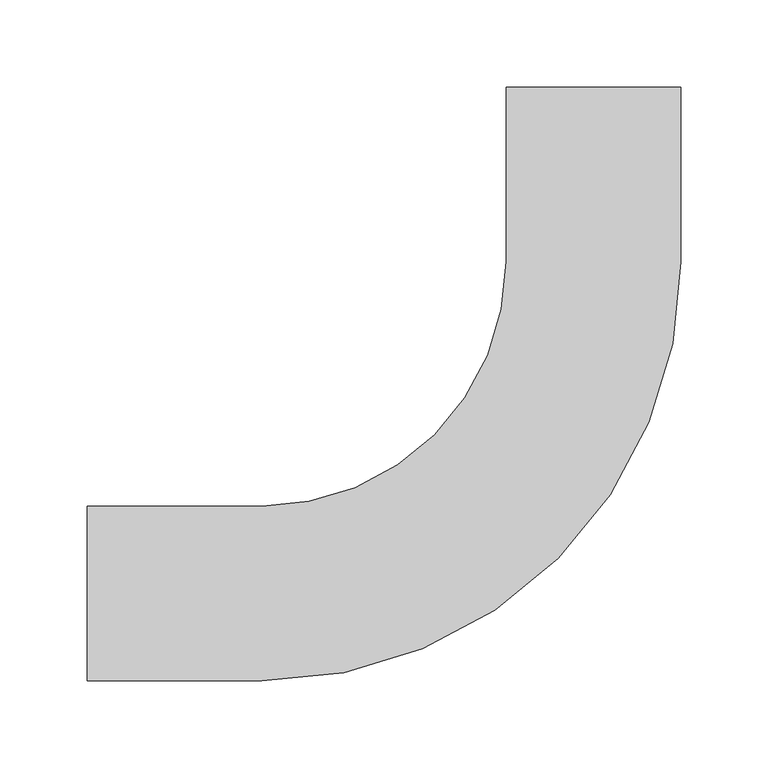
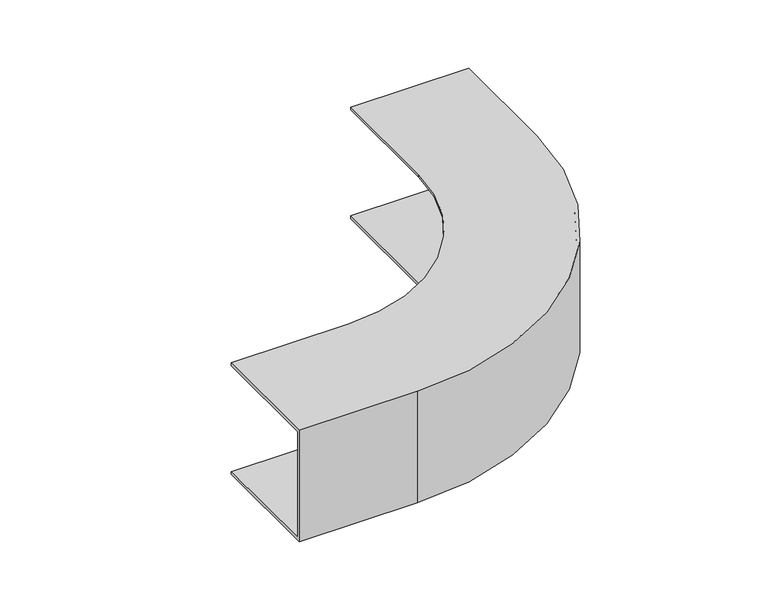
"""IFC4 building model written with IfcOpenShell, lengths in millimetres: cable carrier fitting geometry, BAKS_Vertical_bend_int : LZWCH100/LZWMCH100."""

from ifc_helpers import new_model, si_unit, frame, origin, place, context, project, spatial, polyline, circle_curve, source, transform, mapped, element, save
from ifc_brep_helpers import plane_surface, cylinder_surface, revolved_surface, advanced_brep


def cable_carrier_fitting_ed02f7b7(model_context):
    return source(origin(), model_context, "Body", "AdvancedBrep", [
        advanced_brep(
        [(-290.0, 50.0, -50.0), (-290.0, -50.0, -50.0), (-290.0, -50.0, 50.0), (-290.0, 50.0, 50.0), (-290.0, 50.0, 47.46), (-290.0, -47.46, 47.46), (-290.0, -47.46, -47.46), (-290.0, 50.0, -47.46), (-50.0, 290.0, -50.0), (-50.0, 290.0, -47.46), (47.46, 290.0, -47.46), (47.46, 290.0, 47.46), (-50.0, 290.0, 47.46), (-50.0, 290.0, 50.0), (50.0, 290.0, 50.0), (50.0, 290.0, -50.0), (-190.0, 50.0, -50.0), (-50.0, 190.0, -50.0), (50.0, 190.0, -50.0), (-190.0, -50.0, -50.0), (-190.0, -50.0, 50.0), (50.0, 190.0, 50.0), (-50.0, 190.0, 50.0), (-190.0, 50.0, 50.0), (-190.0, 50.0, 47.46), (-50.0, 190.0, 47.46), (47.46, 190.0, 47.46), (-190.0, -47.46, 47.46), (-190.0, -47.46, -47.46), (47.46, 190.0, -47.46), (-50.0, 190.0, -47.46), (-190.0, 50.0, -47.46)],
        [
            (0, 1),
            (1, 2),
            (2, 3),
            (3, 4),
            (4, 5),
            (5, 6),
            (6, 7),
            (7, 0),
            (8, 9),
            (9, 10),
            (10, 11),
            (11, 12),
            (12, 13),
            (13, 14),
            (14, 15),
            (15, 8),
            (0, 16),
            (16, 17, circle_curve(frame((-190.0, 190.0, -50.0), z_axis=(0.0, 0.0, 1.0), x_axis=(0.0, -1.0, 0.0)), 140.0)),
            (17, 8),
            (15, 18),
            (18, 19, circle_curve(frame((-190.0, 190.0, -50.0), z_axis=(0.0, 0.0, -1.0), x_axis=(0.0, -1.0, 0.0)), 240.0)),
            (19, 1),
            (19, 20),
            (20, 2),
            (20, 21, circle_curve(frame((-190.0, 190.0, 50.0), z_axis=(0.0, 0.0, 1.0), x_axis=(0.0, -1.0, 0.0)), 240.0)),
            (21, 14),
            (13, 22),
            (22, 23, circle_curve(frame((-190.0, 190.0, 50.0), z_axis=(0.0, 0.0, -1.0), x_axis=(0.0, -1.0, 0.0)), 140.0)),
            (23, 3),
            (23, 24),
            (24, 4),
            (24, 25, circle_curve(frame((-190.0, 190.0, 47.46), z_axis=(0.0, 0.0, 1.0), x_axis=(0.0, -1.0, 0.0)), 140.0)),
            (25, 12),
            (11, 26),
            (26, 27, circle_curve(frame((-190.0, 190.0, 47.46), z_axis=(0.0, 0.0, -1.0), x_axis=(0.0, -1.0, 0.0)), 237.46)),
            (27, 5),
            (27, 28),
            (28, 6),
            (28, 29, circle_curve(frame((-190.0, 190.0, -47.46), z_axis=(0.0, 0.0, 1.0), x_axis=(0.0, -1.0, 0.0)), 237.46)),
            (29, 10),
            (9, 30),
            (30, 31, circle_curve(frame((-190.0, 190.0, -47.46), z_axis=(0.0, 0.0, -1.0), x_axis=(0.0, -1.0, 0.0)), 140.0)),
            (31, 7),
            (31, 16),
            (18, 21),
            (22, 25),
            (26, 29),
            (30, 17),
        ],
        [
            plane_surface(frame((-290.0, 0.0, 0.0), z_axis=(-1.0, 0.0, 0.0), x_axis=(0.0, 0.0, 1.0))),
            plane_surface(frame((0.0, 290.0, 0.0), z_axis=(0.0, 1.0, 0.0), x_axis=(0.0, 0.0, 1.0))),
            plane_surface(frame((-290.0, 50.0, -50.0), z_axis=(0.0, 0.0, -1.0), x_axis=(1.0, 0.0, 0.0))),
            plane_surface(frame((-290.0, -50.0, -50.0), z_axis=(0.0, -1.0, 0.0), x_axis=(1.0, 0.0, 0.0))),
            plane_surface(frame((-290.0, -50.0, 50.0), z_axis=(0.0, 0.0, 1.0), x_axis=(1.0, 0.0, 0.0))),
            plane_surface(frame((-290.0, 50.0, 50.0), z_axis=(0.0, 1.0, 0.0), x_axis=(1.0, 0.0, 0.0))),
            plane_surface(frame((-290.0, 50.0, 47.46), z_axis=(0.0, 0.0, -1.0), x_axis=(1.0, 0.0, 0.0))),
            plane_surface(frame((-290.0, -47.46, 47.46), z_axis=(0.0, 1.0, 0.0), x_axis=(1.0, 0.0, 0.0))),
            plane_surface(frame((-290.0, -47.46, -47.46), z_axis=(0.0, 0.0, 1.0), x_axis=(1.0, 0.0, 0.0))),
            plane_surface(frame((-290.0, 50.0, -47.46), z_axis=(0.0, 1.0, 0.0), x_axis=(1.0, 0.0, 0.0))),
            cylinder_surface(frame((-190.0, 190.0, 0.0), z_axis=(0.0, 0.0, 1.0), x_axis=(0.0, -1.0, 0.0)), 240.0),
            revolved_surface(polyline([(-190.0, 50.0, 50.0), (-190.0, 50.0, 47.46)]), (-190.0, 190.0, 0.0), (0.0, 0.0, 1.0)),
            revolved_surface(polyline([(-190.0, -47.46000000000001, 47.46), (-190.0, -47.46000000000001, -47.46)]), (-190.0, 190.0, 0.0), (0.0, 0.0, 1.0)),
            revolved_surface(polyline([(-190.0, 50.0, -47.46), (-190.0, 50.0, -50.0)]), (-190.0, 190.0, 0.0), (0.0, 0.0, 1.0)),
            plane_surface(frame((50.0, 190.0, -50.0), z_axis=(1.0, 0.0, 0.0), x_axis=(0.0, 1.0, 0.0))),
            plane_surface(frame((-50.0, 190.0, 50.0), z_axis=(-1.0, 0.0, 0.0), x_axis=(0.0, 1.0, 0.0))),
            plane_surface(frame((47.46, 190.0, 47.46), z_axis=(-1.0, 0.0, 0.0), x_axis=(0.0, 1.0, 0.0))),
            plane_surface(frame((-50.0, 190.0, -47.46), z_axis=(-1.0, 0.0, 0.0), x_axis=(0.0, 1.0, 0.0))),
        ],
        [
            (0, [[1, 2, 3, 4, 5, 6, 7, 8]]),
            (1, [[9, 10, 11, 12, 13, 14, 15, 16]]),
            (2, [[-1, 17, 18, 19, -16, 20, 21, 22]]),
            (3, [[-2, -22, 23, 24]]),
            (4, [[-3, -24, 25, 26, -14, 27, 28, 29]]),
            (5, [[-4, -29, 30, 31]]),
            (6, [[-5, -31, 32, 33, -12, 34, 35, 36]]),
            (7, [[-6, -36, 37, 38]]),
            (8, [[-7, -38, 39, 40, -10, 41, 42, 43]]),
            (9, [[-8, -43, 44, -17]]),
            (10, [[-25, -23, -21, 45]]),
            (11, [[-32, -30, -28, 46]]),
            (12, [[-39, -37, -35, 47]]),
            (13, [[-18, -44, -42, 48]]),
            (14, [[-45, -20, -15, -26]]),
            (15, [[-46, -27, -13, -33]]),
            (16, [[-47, -34, -11, -40]]),
            (17, [[-48, -41, -9, -19]]),
        ],
    ),
    ])


if __name__ == "__main__":
    model = new_model("IFC4")
    model_context = context("Model", 3, world=origin())
    ifc_project = project(units=[si_unit("LENGTHUNIT", "METRE", prefix="MILLI")], contexts=[model_context])
    site = spatial("IfcSite", under=ifc_project)
    building = spatial("IfcBuilding", under=site)
    placement = place(None, origin())
    cable_carrier_fitting_shape = cable_carrier_fitting_ed02f7b7(model_context)
    element("IfcCableCarrierFitting", 1, ObjectType="BAKS_Vertical_bend_int : LZWCH100/LZWMCH100", at=placement, inside=building, context=model_context, shape_type="MappedRepresentation", body=[
        mapped(cable_carrier_fitting_shape, transform((0.0, 0.0, 0.0), x_axis=(1.0, 0.0, 0.0), y_axis=(0.0, 1.0, 0.0), z_axis=(0.0, 0.0, 1.0))),
    ])
    save(model, "model.ifc")
